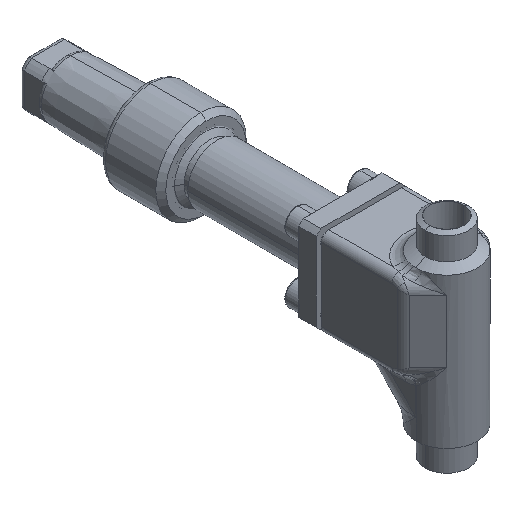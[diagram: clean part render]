
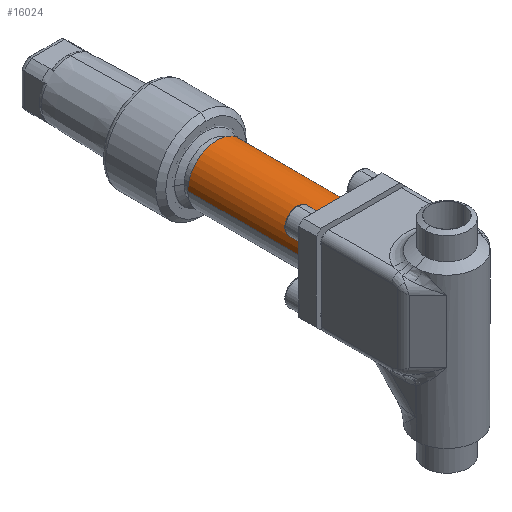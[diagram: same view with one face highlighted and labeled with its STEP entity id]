
A CAD part, isometric view. The second image highlights one B-rep face of the part: STEP entity #16024.
In plain terms, the highlighted cylindrical face has radius 11.75 mm (diameter 23.5 mm), a partial arc.
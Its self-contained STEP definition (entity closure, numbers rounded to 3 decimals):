
#487 = CARTESIAN_POINT ( 'NONE',  ( 11.75, 0., -7.2 ) ) ;
#615 = LINE ( 'NONE', #616, #617 ) ;
#616 = CARTESIAN_POINT ( 'NONE',  ( -11.75, 0., -57. ) ) ;
#617 = VECTOR ( 'NONE', #618, 1000. ) ;
#618 = DIRECTION ( 'NONE',  ( 0., 0., 1. ) ) ;
#2484 = CARTESIAN_POINT ( 'NONE',  ( 11.75, 0., -57. ) ) ;
#2620 = CARTESIAN_POINT ( 'NONE',  ( -11.75, 0., -7.2 ) ) ;
#6687 = EDGE_CURVE ( 'NONE', #9302, #12692, #7111, .T. ) ;
#7055 = ORIENTED_EDGE ( 'NONE', *, *, #6687, .F. ) ;
#7111 = LINE ( 'NONE', #7112, #7113 ) ;
#7112 = CARTESIAN_POINT ( 'NONE',  ( 11.75, 0., -57. ) ) ;
#7113 = VECTOR ( 'NONE', #7114, 1000. ) ;
#7114 = DIRECTION ( 'NONE',  ( 0., 0., 1. ) ) ;
#7319 = FACE_OUTER_BOUND ( 'NONE', #15786, .T. ) ;
#7336 = CYLINDRICAL_SURFACE ( 'NONE', #7337, 11.75 ) ;
#7337 = AXIS2_PLACEMENT_3D ( 'NONE', #7338, #7339, #7342 ) ;
#7338 = CARTESIAN_POINT ( 'NONE',  ( 0., 0., -57. ) ) ;
#7339 = DIRECTION ( 'NONE',  ( 0., 0., 1. ) ) ;
#7342 = DIRECTION ( 'NONE',  ( 1., 0., 0. ) ) ;
#7560 = EDGE_CURVE ( 'NONE', #13780, #12692, #9290, .T. ) ;
#7923 = ORIENTED_EDGE ( 'NONE', *, *, #7560, .T. ) ;
#8430 = EDGE_CURVE ( 'NONE', #9524, #13780, #615, .T. ) ;
#8791 = ORIENTED_EDGE ( 'NONE', *, *, #8430, .T. ) ;
#9290 = CIRCLE ( 'NONE', #9291, 11.75 ) ;
#9291 = AXIS2_PLACEMENT_3D ( 'NONE', #9292, #9293, #9294 ) ;
#9292 = CARTESIAN_POINT ( 'NONE',  ( 0., 0., -7.2 ) ) ;
#9293 = DIRECTION ( 'NONE',  ( 0., 0., -1. ) ) ;
#9294 = DIRECTION ( 'NONE',  ( 1., 0., 0. ) ) ;
#9302 = VERTEX_POINT ( 'NONE', #2484 ) ;
#9524 = VERTEX_POINT ( 'NONE', #11348 ) ;
#9746 = EDGE_CURVE ( 'NONE', #9524, #9302, #11457, .T. ) ;
#10110 = ORIENTED_EDGE ( 'NONE', *, *, #9746, .F. ) ;
#11348 = CARTESIAN_POINT ( 'NONE',  ( -11.75, 0., -57. ) ) ;
#11457 = CIRCLE ( 'NONE', #11458, 11.75 ) ;
#11458 = AXIS2_PLACEMENT_3D ( 'NONE', #11459, #11460, #11461 ) ;
#11459 = CARTESIAN_POINT ( 'NONE',  ( 0., 0., -57. ) ) ;
#11460 = DIRECTION ( 'NONE',  ( 0., 0., -1. ) ) ;
#11461 = DIRECTION ( 'NONE',  ( -1., 0., 0. ) ) ;
#12692 = VERTEX_POINT ( 'NONE', #487 ) ;
#13780 = VERTEX_POINT ( 'NONE', #2620 ) ;
#15786 = EDGE_LOOP ( 'NONE', ( #10110, #8791, #7923, #7055 ) ) ;
#16024 = ADVANCED_FACE ( 'NONE', ( #7319 ), #7336, .T. ) ;
